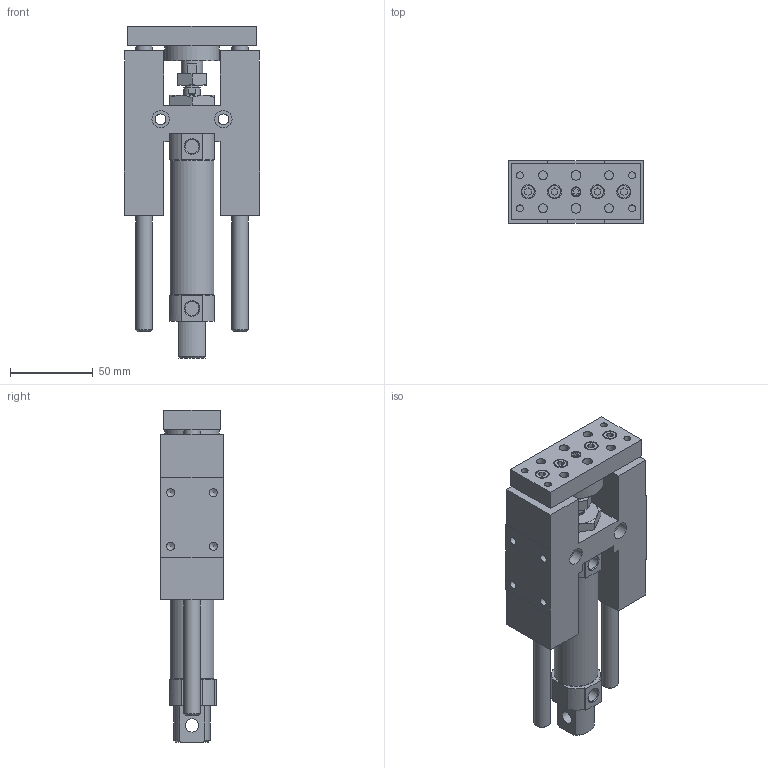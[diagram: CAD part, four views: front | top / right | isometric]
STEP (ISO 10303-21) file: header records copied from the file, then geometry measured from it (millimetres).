
FILE_DESCRIPTION((''),'2;1');
FILE_NAME('I:\3D電子目錄\氣缸\GHB(U)\GHB(U)\GHB(U)25\GHB(U)25x50.stp','2007-10-22T16:49:33',('Administrator'),(''),'Autodesk Inventor 11','Autodesk Inventor 11','');
FILE_SCHEMA(('AUTOMOTIVE_DESIGN { 1 0 10303 214 1 1 1 1 }'));
Length unit declared in the file: millimetre
Products named in the file (1): GHB(U)25
Bounding box: 82 x 38 x 201 mm (x, y, z)
Volume: 325863.8 mm3; surface area: 63921.1 mm2
Topology: 1 solids, 1 shells, 230 faces, 542 edges, 352 vertices
Faces by surface type: plane 131, cylinder 38, bspline 36, cone 25
Full cylindrical faces by diameter (mm): 4.917 x4, 5 x1, 6 x5, 7.5 x4, 8 x1, 8.5 x6, 8.6 x1, 10 x3, 13 x1, 26.6 x1, 33 x1
Entity records: 6522 total; most frequent: CARTESIAN_POINT 1583, DIRECTION 974, ORIENTED_EDGE 928, EDGE_CURVE 464, EDGE_LOOP 358, AXIS2_PLACEMENT_3D 347, VERTEX_POINT 338, VECTOR 280
